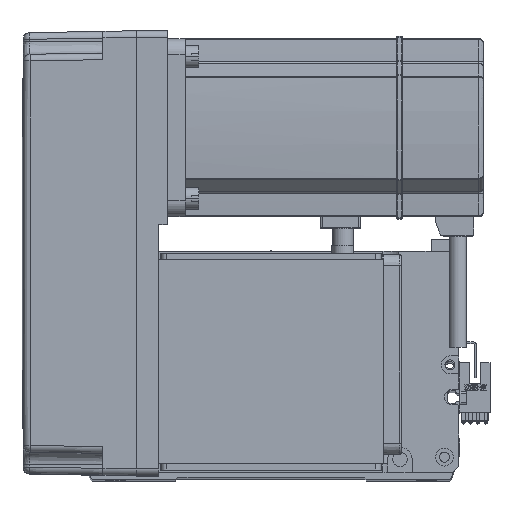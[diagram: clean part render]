
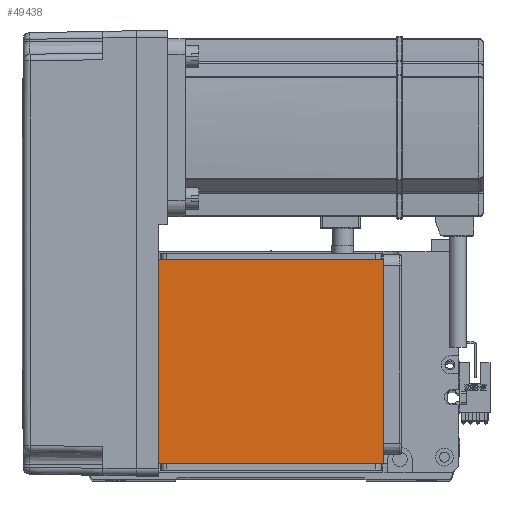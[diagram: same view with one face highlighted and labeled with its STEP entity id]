
A CAD part, top view. The second image highlights one B-rep face of the part: STEP entity #49438.
In plain terms, the highlighted planar face has unit normal (0, 0, 1).
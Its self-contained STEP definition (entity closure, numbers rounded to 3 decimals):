
#1048 = PLANE ( 'NONE',  #41090 ) ;
#3679 = EDGE_CURVE ( 'NONE', #26597, #39734, #20659, .T. ) ;
#3690 = CARTESIAN_POINT ( 'NONE',  ( -70.004, 111.5, 115. ) ) ;
#3868 = DIRECTION ( 'NONE',  ( 0., -1., 0. ) ) ;
#4724 = ORIENTED_EDGE ( 'NONE', *, *, #3679, .F. ) ;
#5209 = VECTOR ( 'NONE', #51337, 1000. ) ;
#8017 = CARTESIAN_POINT ( 'NONE',  ( -50.5, 111.5, 115. ) ) ;
#9203 = VECTOR ( 'NONE', #32603, 1000. ) ;
#9313 = CARTESIAN_POINT ( 'NONE',  ( 0., 0., 115. ) ) ;
#11292 = FACE_OUTER_BOUND ( 'NONE', #31877, .T. ) ;
#11704 = VERTEX_POINT ( 'NONE', #8017 ) ;
#17194 = VECTOR ( 'NONE', #3868, 1000. ) ;
#17960 = VECTOR ( 'NONE', #45168, 1000. ) ;
#19846 = CARTESIAN_POINT ( 'NONE',  ( -70.004, 20., 115. ) ) ;
#20659 = LINE ( 'NONE', #19846, #17960 ) ;
#26597 = VERTEX_POINT ( 'NONE', #47604 ) ;
#26692 = VERTEX_POINT ( 'NONE', #31253 ) ;
#26926 = DIRECTION ( 'NONE',  ( 1., 0., 0. ) ) ;
#27982 = LINE ( 'NONE', #3690, #5209 ) ;
#28609 = LINE ( 'NONE', #42110, #17194 ) ;
#30795 = CARTESIAN_POINT ( 'NONE',  ( -50.5, 20., 115. ) ) ;
#31253 = CARTESIAN_POINT ( 'NONE',  ( 50.5, 111.5, 115. ) ) ;
#31799 = ORIENTED_EDGE ( 'NONE', *, *, #32562, .F. ) ;
#31877 = EDGE_LOOP ( 'NONE', ( #31799, #38321, #4724, #45380 ) ) ;
#32413 = CARTESIAN_POINT ( 'NONE',  ( 50.5, 122., 115. ) ) ;
#32562 = EDGE_CURVE ( 'NONE', #11704, #26692, #27982, .T. ) ;
#32603 = DIRECTION ( 'NONE',  ( 0., 1., 0. ) ) ;
#38074 = EDGE_CURVE ( 'NONE', #26597, #26692, #44705, .T. ) ;
#38321 = ORIENTED_EDGE ( 'NONE', *, *, #38609, .T. ) ;
#38609 = EDGE_CURVE ( 'NONE', #11704, #39734, #28609, .T. ) ;
#39734 = VERTEX_POINT ( 'NONE', #30795 ) ;
#41090 = AXIS2_PLACEMENT_3D ( 'NONE', #9313, #48135, #26926 ) ;
#42110 = CARTESIAN_POINT ( 'NONE',  ( -50.5, 122., 115. ) ) ;
#44705 = LINE ( 'NONE', #32413, #9203 ) ;
#45168 = DIRECTION ( 'NONE',  ( -1., 0., 0. ) ) ;
#45380 = ORIENTED_EDGE ( 'NONE', *, *, #38074, .T. ) ;
#47604 = CARTESIAN_POINT ( 'NONE',  ( 50.5, 20., 115. ) ) ;
#48135 = DIRECTION ( 'NONE',  ( 0., 0., 1. ) ) ;
#49438 = ADVANCED_FACE ( 'NONE', ( #11292 ), #1048, .T. ) ;
#51337 = DIRECTION ( 'NONE',  ( 1., 0., 0. ) ) ;
